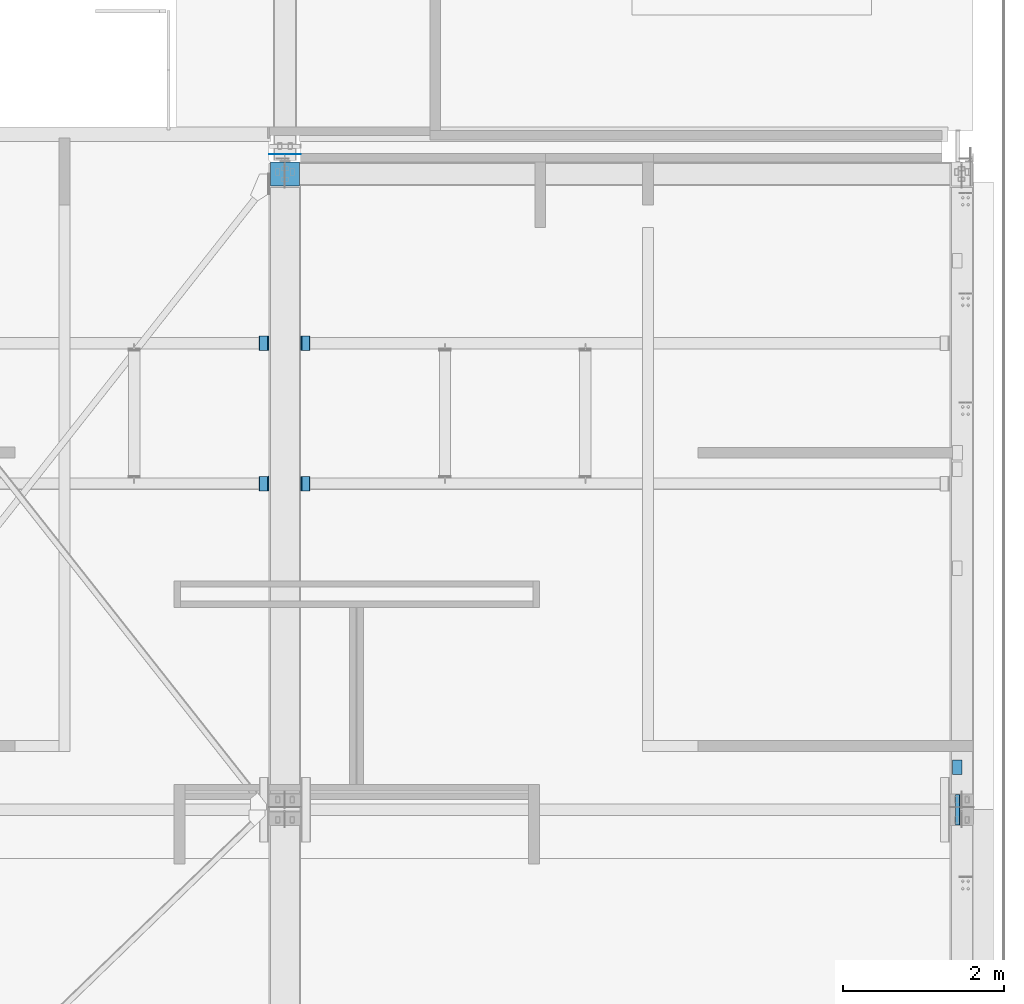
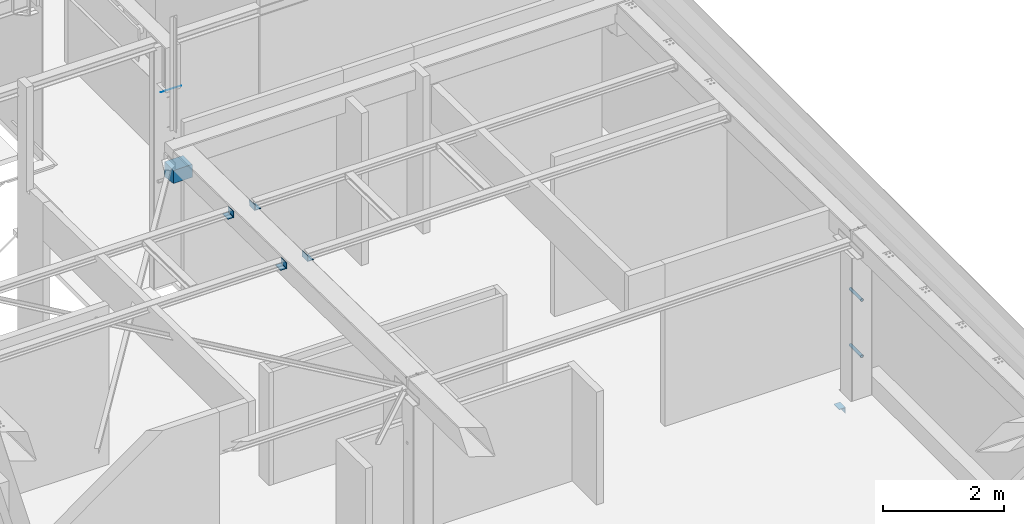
# One storey, part 28 of 186: 9 beams.
"""IFC4X3_ADD2 building model written with IfcOpenShell, lengths in millimetres."""

from ifc_helpers import new_model, entity, si_unit, direction, frame, frame_2d, origin_with_axes, place, context, subcontext, project, spatial, rectangle, hollow_circle, l_section, extrude, material, element, save


model = new_model("IFC4X3_ADD2")

# Units and contexts
model_context = context("Model", 3, precision=1e-05, world=origin_with_axes(), true_north=direction((0.0, 1.0)))
body_context = subcontext(model_context, "Body", "Model", "MODEL_VIEW")
ifc_project = project(units=[si_unit("LENGTHUNIT", "METRE", prefix="MILLI"), si_unit("AREAUNIT", "SQUARE_METRE"), si_unit("VOLUMEUNIT", "CUBIC_METRE"), si_unit("PLANEANGLEUNIT", "RADIAN"), si_unit("TIMEUNIT", "SECOND"), si_unit("MASSUNIT", "GRAM")], contexts=[model_context])

# Site, building, storey
site_placement = place(None, origin_with_axes())
site = spatial("IfcSite", under=ifc_project, at=site_placement, Name="Site", CompositionType="ELEMENT")
building_placement = place(site_placement, origin_with_axes())
building = spatial("IfcBuilding", under=site, at=building_placement, Name="IFC Building Story")
storey_placement = place(building_placement, frame((0.0, 0.0, 4370.0), z_axis=(0.0, 0.0, 1.0), x_axis=(1.0, 0.0, 0.0)))
storey = spatial("IfcBuildingStorey", under=building, at=storey_placement, Name="ETAGE 10 (1)", Elevation=4370.0)

# Beams
ifc_material_1 = material(Name="STEEL/Accessory_C50/60 64192")
beam_1_placement = place(storey_placement, frame((39786.189, -150.0, 2599.903), z_axis=(1.0, 0.0, 0.0), x_axis=(0.0, 0.0, 1.0)))
element("IfcBeam", 1, at=beam_1_placement, inside=storey, material=ifc_material_1, Name="BEK1", ObjectType="CORBEL300-300-260", context=body_context, shape_type="SweptSolid", body=[
    extrude(entity("IfcTrapeziumProfileDef", "AREA", None, entity("IfcAxis2Placement2D", entity("IfcCartesianPoint", [0.0, 5.95523630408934e-12]), entity("IfcDirection", [1.0, 0.0])), 300.0, 260.0, 300.0, 40.0), origin_with_axes(), (0.0, 0.0, 1.0), 360.0),
])
ifc_material_2 = material(Name="BS_28_Métal")
beam_2_placement = place(storey_placement, frame((39706.1893482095, -4079.724278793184, 3137.990482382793), z_axis=(0.0, 0.9998875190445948, -0.01499830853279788), x_axis=(-1.0, 0.0, 0.0)))
element("IfcBeam", 2, at=beam_2_placement, inside=storey, material=ifc_material_2, Name="C_28_104 - Cornière symétrique:L120x120x12", ObjectType="L120x120x12", context=body_context, shape_type="SweptSolid", body=[
    extrude(l_section(Depth=120.0000000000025, Width=120.0, Thickness=12.00000000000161, FilletRadius=13.0000000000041, EdgeRadius=4.799999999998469, LegSlope=0.0, at=frame_2d((0.0, 5.95523630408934e-12), x_axis=(1.0, 0.0))), origin_with_axes(), (0.0, 0.0, 1.0), 180.0007083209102),
])
beam_3_placement = place(storey_placement, frame((39706.1893482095, -2339.979651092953, 3110.247650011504), z_axis=(0.0, 0.9998875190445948, -0.01499830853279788), x_axis=(-1.0, 0.0, 0.0)))
element("IfcBeam", 3, at=beam_3_placement, inside=storey, material=ifc_material_2, Name="C_28_104 - Cornière symétrique:L120x120x12", ObjectType="L120x120x12", context=body_context, shape_type="SweptSolid", body=[
    extrude(l_section(Depth=120.0000000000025, Width=120.0, Thickness=12.00000000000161, FilletRadius=13.0000000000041, EdgeRadius=4.799999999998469, LegSlope=0.0, at=frame_2d((0.0, 5.95523630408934e-12), x_axis=(1.0, 0.0))), origin_with_axes(), (0.0, 0.0, 1.0), 179.999991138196),
])
beam_4_placement = place(storey_placement, frame((40216.1893482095, -2339.980520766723, 3110.196249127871), z_axis=(0.0, 0.9998875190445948, -0.01499830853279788), x_axis=(0.0, 0.01499830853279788, 0.9998875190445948)))
element("IfcBeam", 4, at=beam_4_placement, inside=storey, material=ifc_material_2, Name="C_28_104 - Cornière symétrique:L120x120x12", ObjectType="L120x120x12", context=body_context, shape_type="SweptSolid", body=[
    extrude(l_section(Depth=120.0000000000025, Width=120.0, Thickness=12.00000000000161, FilletRadius=13.0000000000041, EdgeRadius=4.799999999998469, LegSlope=0.0, at=frame_2d((0.0, 5.95523630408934e-12), x_axis=(1.0, 0.0))), origin_with_axes(), (0.0, 0.0, 1.0), 180.0000897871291),
])
beam_5_placement = place(storey_placement, frame((40216.1893482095, -4079.758459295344, 3137.991029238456), z_axis=(0.0, 0.9998875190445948, -0.01499830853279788), x_axis=(0.0, 0.01499830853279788, 0.9998875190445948)))
element("IfcBeam", 5, at=beam_5_placement, inside=storey, material=ifc_material_2, Name="C_28_104 - Cornière symétrique:L120x120x12", ObjectType="L120x120x12", context=body_context, shape_type="SweptSolid", body=[
    extrude(l_section(Depth=120.0000000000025, Width=120.0, Thickness=12.00000000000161, FilletRadius=13.0000000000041, EdgeRadius=4.799999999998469, LegSlope=0.0, at=frame_2d((0.0, 5.95523630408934e-12), x_axis=(1.0, 0.0))), origin_with_axes(), (0.0, 0.0, 1.0), 180.0000897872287),
])
beam_6_placement = place(storey_placement, frame((48303.6893481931, -7415.60531877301, -650.0000000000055), z_axis=(0.0, -1.0, 0.0), x_axis=(-1.0, 0.0, 0.0)))
element("IfcBeam", 6, at=beam_6_placement, inside=storey, material=ifc_material_2, Name="C_28_104 - Cornière symétrique:L120x120x12", ObjectType="L120x120x12", context=body_context, shape_type="SweptSolid", body=[
    extrude(l_section(Depth=120.0000000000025, Width=120.0, Thickness=12.00000000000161, FilletRadius=13.0000000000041, EdgeRadius=4.799999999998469, LegSlope=0.0, at=frame_2d((0.0, 5.95523630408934e-12), x_axis=(1.0, 0.0))), origin_with_axes(), (0.0, 0.0, 1.0), 179.9999999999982),
])
ifc_material_3 = material(Name="STEEL/Accessory_invisible")
beam_7_placement = place(storey_placement, frame((40161.189, 95.0, 4089.5), z_axis=(-1.0, 0.0, 0.0), x_axis=(0.0, 1.0, 0.0)))
element("IfcBeam", 7, at=beam_7_placement, inside=storey, material=ifc_material_3, Name="RH15", ObjectType="1*1 3", context=body_context, shape_type="SweptSolid", body=[
    extrude(rectangle(XDim=0.9999999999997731, YDim=0.9999999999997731, at=frame_2d((0.0, 5.95523630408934e-12), x_axis=(1.0, 0.0))), origin_with_axes(), (0.0, 0.0, 1.0), 390.0),
])
ifc_material_4 = material(Name="STEEL/Accessory_PVC")
for number, where, z_axis, x_axis, name in (
    (8, (48310.68599999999, -8226.99999994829, 840.0), (0.0, 1.0, 0.0), (1.0, 0.0, 0.0), "PS13"),
    (9, (48310.68599999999, -8226.99999994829, 1970.0), (0.0, 1.0, 0.0), (1.0, 0.0, 0.0), "PS13"),
):
    element("IfcBeam", number, at=place(storey_placement, frame(where, z_axis=z_axis, x_axis=x_axis)), inside=storey, material=ifc_material_4, Name=name, ObjectType="O56*3", context=body_context, shape_type="SweptSolid", body=[
        extrude(hollow_circle(Radius=28.0, WallThickness=3.0, at=frame_2d((0.0, 5.95523630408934e-12), x_axis=(1.0, 0.0))), origin_with_axes(), (0.0, 0.0, 1.0), 384.0),
    ])

save(model, "model.ifc")
